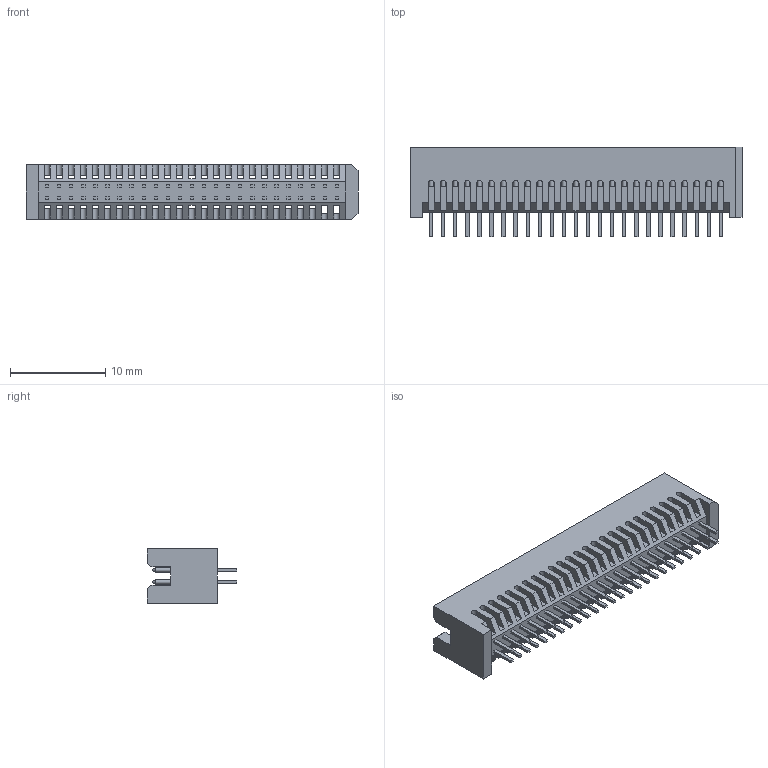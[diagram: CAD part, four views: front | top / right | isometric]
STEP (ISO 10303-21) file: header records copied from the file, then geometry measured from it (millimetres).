
FILE_DESCRIPTION (( 'STEP AP203' ), '1' );
FILE_NAME ('TFM-125-11-X-D.step', '2013-06-03T12:29:00', ( 'Test' ), ( 'SAMTEC' ), 'SwSTEP 2.0', 'SolidWorks 2012', '' );
FILE_SCHEMA (( 'CONFIG_CONTROL_DESIGN' ));
Length unit declared in the file: inch
Products named in the file (1): TFM-125-11-X-D
Bounding box: 34.92 x 9.4 x 5.71 mm (x, y, z)
Volume: 751.4 mm3; surface area: 1925.2 mm2
Topology: 1 solids, 1 shells, 638 faces, 1851 edges, 1215 vertices
Faces by surface type: plane 488, cylinder 100, cone 50
Full cylindrical faces by diameter (mm): 0.457 x50
Entity records: 20528 total; most frequent: CARTESIAN_POINT 3605, ORIENTED_EDGE 3502, DIRECTION 3279, EDGE_CURVE 1751, LINE 1501, VECTOR 1501, VERTEX_POINT 1215, AXIS2_PLACEMENT_3D 889
